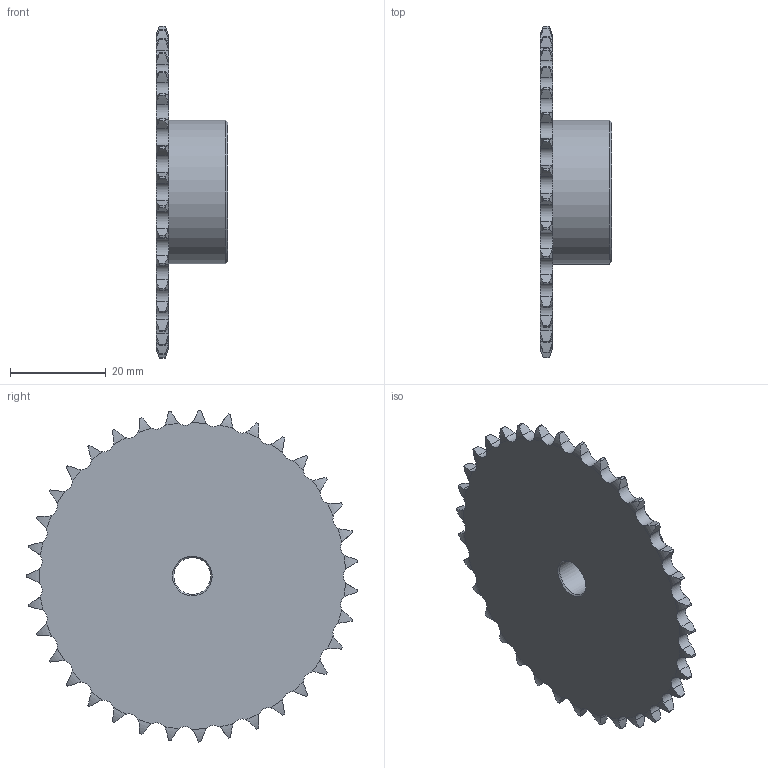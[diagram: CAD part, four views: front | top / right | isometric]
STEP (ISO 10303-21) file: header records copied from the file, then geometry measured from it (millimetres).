
FILE_DESCRIPTION(/* description */ (''),/* implementation_level */ '2;1');
FILE_NAME(/* name */ 'C:\Users\stagistaCAD\Desktop\10106035.stp',/* time_stamp */ '2018-06-21T15:39:44+02:00',/* author */ ('stagistacad'),/* organization */ (''),/* preprocessor_version */ 'ST-DEVELOPER v15.6',/* originating_system */ 'Autodesk Inventor 2015',/* authorisation */ '');
FILE_SCHEMA (('AUTOMOTIVE_DESIGN { 1 0 10303 214 3 1 1 }'));
Length unit declared in the file: millimetre
Products named in the file (1): 10106035
Bounding box: 15 x 69.18 x 69.25 mm (x, y, z)
Volume: 16676.5 mm3; surface area: 8812.4 mm2
Topology: 1 solids, 1 shells, 218 faces, 642 edges, 427 vertices
Faces by surface type: cylinder 142, torus 70, plane 3, cone 3
Full cylindrical faces by diameter (mm): 7.7 x1, 30 x1
Entity records: 8046 total; most frequent: CARTESIAN_POINT 2567, ORIENTED_EDGE 1274, DIRECTION 1012, EDGE_CURVE 637, AXIS2_PLACEMENT_3D 436, VERTEX_POINT 427, B_SPLINE_CURVE_WITH_KNOTS 280, EDGE_LOOP 226
